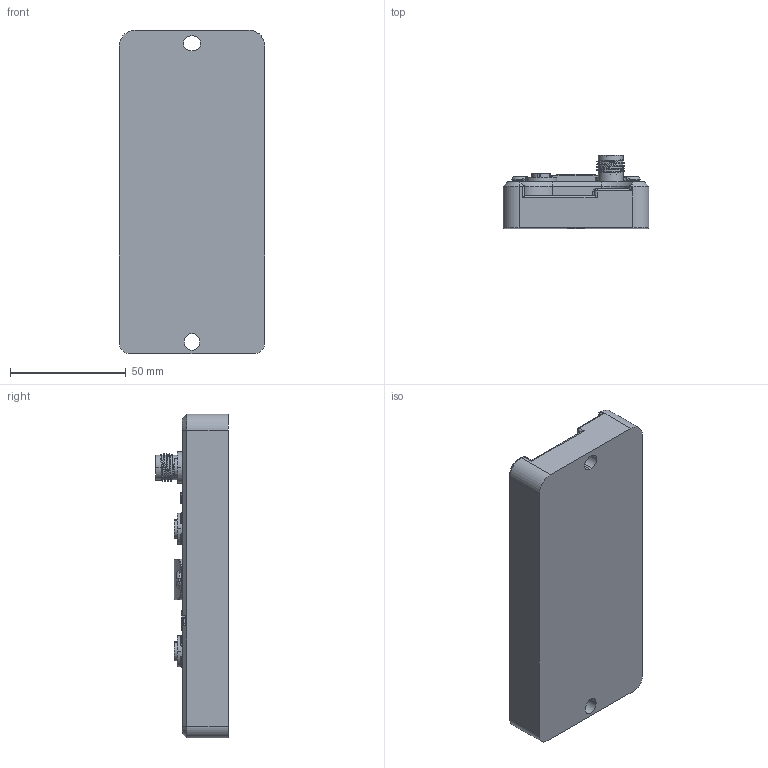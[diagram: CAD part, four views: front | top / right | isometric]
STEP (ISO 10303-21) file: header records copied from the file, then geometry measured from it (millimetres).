
FILE_DESCRIPTION((''),'2;1');
FILE_NAME('IO_-20210727_ASM_8_ASM_ASM_ASM_ASM','2022-11-29T',('HIAPAD'),(''),'PRO/ENGINEER BY PARAMETRIC TECHNOLOGY CORPORATION, 2008310','PRO/ENGINEER BY PARAMETRIC TECHNOLOGY CORPORATION, 2008310','');
FILE_SCHEMA(('CONFIG_CONTROL_DESIGN'));
Length unit declared in the file: millimetre
Products named in the file (22): MANIFOLD_SOLID_BREP_3078_1_8_1_; MANIFOLD_SOLID_BREP_3131_2_1_1_; RO-20200701_ASM_20_ASM_2_ASM_2__ASM; GUIJIAOTIAO_3_1_2_2_1_1_1_2_2; RO-20200701_ASM_ASM_10_ASM_2_AS_ASM; 1_ASM_37_ASM_9_ASM_2_ASM_1_ASM__ASM; BMQ_2_1_1_1_2_2_2; RO-0715-1_ASM_58_ASM_2_ASM_1_AS_ASM; BIANMAQI-2_1_1_1_2_2_1; GUIJIAO-2_4_1_1_2_2_1; TX-2_1_2_2_1; TX-5_2_2_2_1; DY-3_2_2_2_1; RO-0729-V1_1__ASM_24_ASM_1_ASM__ASM; RO-20210417_ASM_ASM_ASM_2_ASM_1_ASM; RO-20210419_ASM_ASM_2_ASM_1_ASM_ASM; LED-LENS_6_1; LED-LENS-2_5_1; RUBBER-CIRCLE_1_1; IO_-20210422_ASM_10_ASM_1_ASM_A_ASM; OUT-PANEL_10_1; IO_-20210727_ASM_8_ASM_ASM_ASM_ASM
Assembly tree (34 placements, depth 10):
  IO_-20210727_ASM_8_ASM_ASM_ASM_ASM
    IO_-20210422_ASM_10_ASM_1_ASM_A_ASM
      RO-20210419_ASM_ASM_2_ASM_1_ASM_ASM
        RO-20210417_ASM_ASM_ASM_2_ASM_1_ASM
          RO-0729-V1_1__ASM_24_ASM_1_ASM__ASM
            RO-0715-1_ASM_58_ASM_2_ASM_1_AS_ASM
              1_ASM_37_ASM_9_ASM_2_ASM_1_ASM__ASM
                RO-20200701_ASM_ASM_10_ASM_2_AS_ASM
                  RO-20200701_ASM_20_ASM_2_ASM_2__ASM
                    MANIFOLD_SOLID_BREP_3131_2_1_1_  x2
                  GUIJIAOTIAO_3_1_2_2_1_1_1_2_2
              BMQ_2_1_1_1_2_2_2  x3
            BIANMAQI-2_1_1_1_2_2_1  x2
            GUIJIAO-2_4_1_1_2_2_1
            TX-2_1_2_2_1  x2
            TX-5_2_2_2_1  x3
            DY-3_2_2_2_1
      LED-LENS_6_1  x5
      LED-LENS-2_5_1
      RUBBER-CIRCLE_1_1  x2
    LED-LENS-2_5_1
    OUT-PANEL_10_1
Bounding box: 63 x 31.4 x 140 mm (x, y, z)
Volume: 176790.9 mm3; surface area: 48714.1 mm2
Topology: 26 solids, 40 shells, 2203 faces, 5721 edges, 3743 vertices
Faces by surface type: plane 1223, cylinder 662, cone 146, bspline 108, torus 40, extrusion 15, sphere 9
Entity records: 45658 total; most frequent: CARTESIAN_POINT 13150, ORIENTED_EDGE 6730, DIRECTION 6641, EDGE_CURVE 3365, AXIS2_PLACEMENT_3D 2261, VERTEX_POINT 2215, VECTOR 2119, LINE 2104
